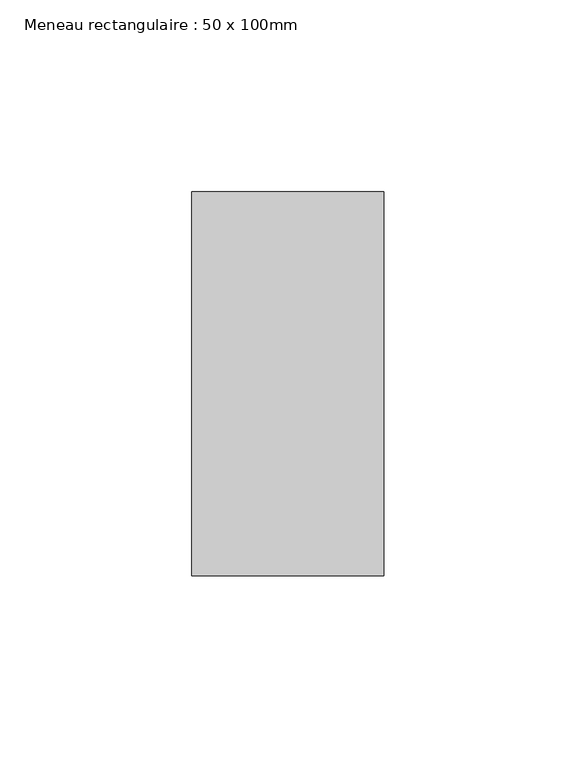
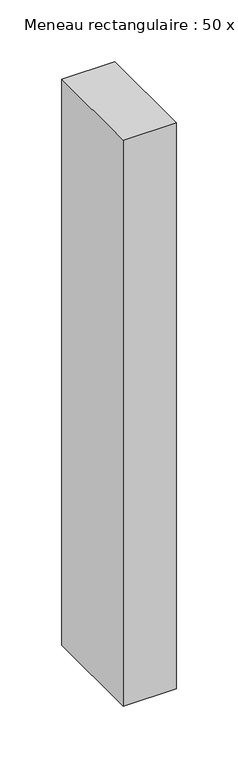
"""IFC4 building model written with IfcOpenShell, lengths in millimetres: member geometry, Meneau rectangulaire : 50 x 100mm."""

from ifc_helpers import new_model, si_unit, frame, origin, place, context, project, spatial, polyline, outline, extrude, source, transform, mapped, element, save


def meneau_rectangulaire_50_x_100mm_fcca4d56(model_context):
    return source(origin(), model_context, "Body", "SweptSolid", [
        extrude(outline(polyline([(0.0, 50.0), (0.0, -50.0), (-50.0, -50.0), (-50.0, 50.0), (0.0, 50.0)])), frame((0.0, 0.0, -561.6666667), z_axis=(0.0, 0.0, 1.0), x_axis=(1.0, 0.0, 0.0)), (0.0, 0.0, 1.0), 561.6666667),
    ])


if __name__ == "__main__":
    model = new_model("IFC4")
    model_context = context("Model", 3, world=origin())
    ifc_project = project(units=[si_unit("LENGTHUNIT", "METRE", prefix="MILLI")], contexts=[model_context])
    site = spatial("IfcSite", under=ifc_project)
    building = spatial("IfcBuilding", under=site)
    placement = place(None, origin())
    meneau_rectangulaire_50_x_100mm_shape = meneau_rectangulaire_50_x_100mm_fcca4d56(model_context)
    element("IfcMember", 1, ObjectType="Meneau rectangulaire : 50 x 100mm", at=placement, inside=building, context=model_context, shape_type="MappedRepresentation", body=[
        mapped(meneau_rectangulaire_50_x_100mm_shape, transform((0.0, 0.0, 0.0), x_axis=(1.0, 0.0, 0.0), y_axis=(0.0, 1.0, 0.0), z_axis=(0.0, 0.0, 1.0))),
    ])
    save(model, "model.ifc")
